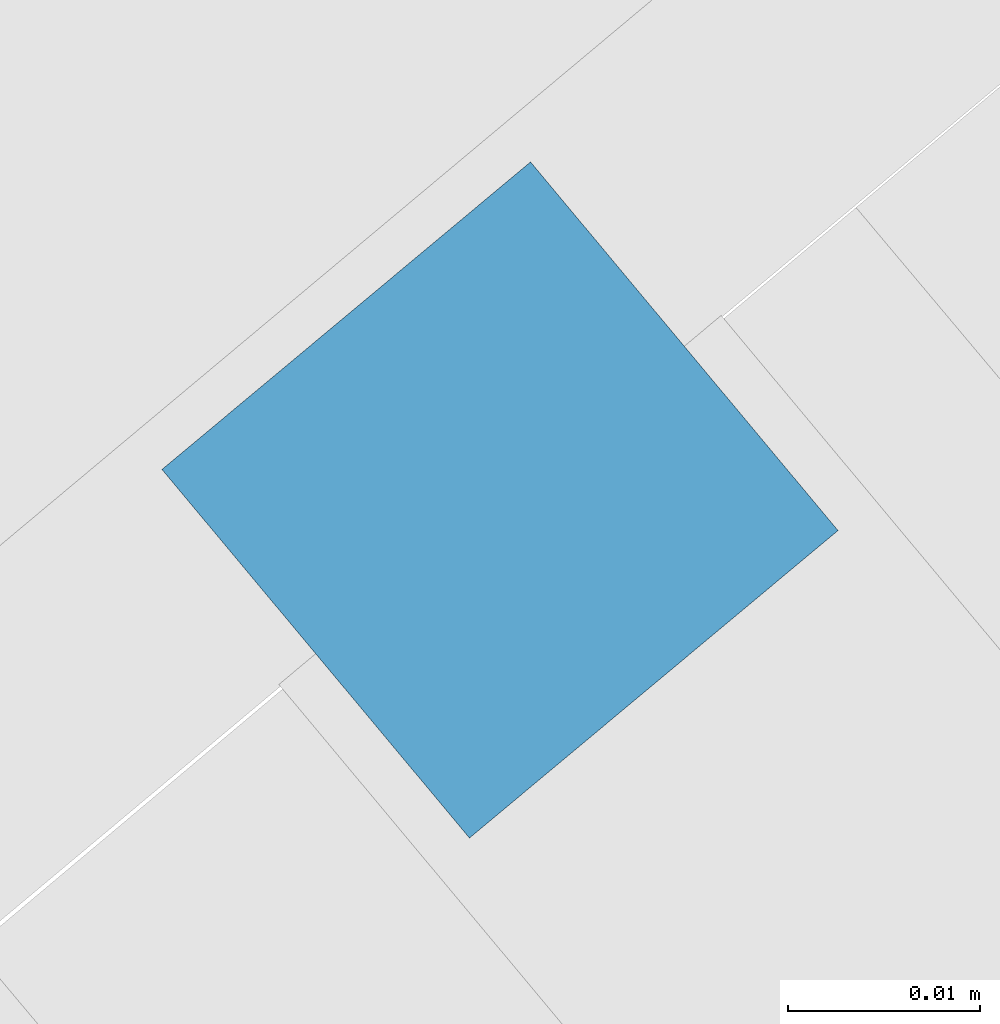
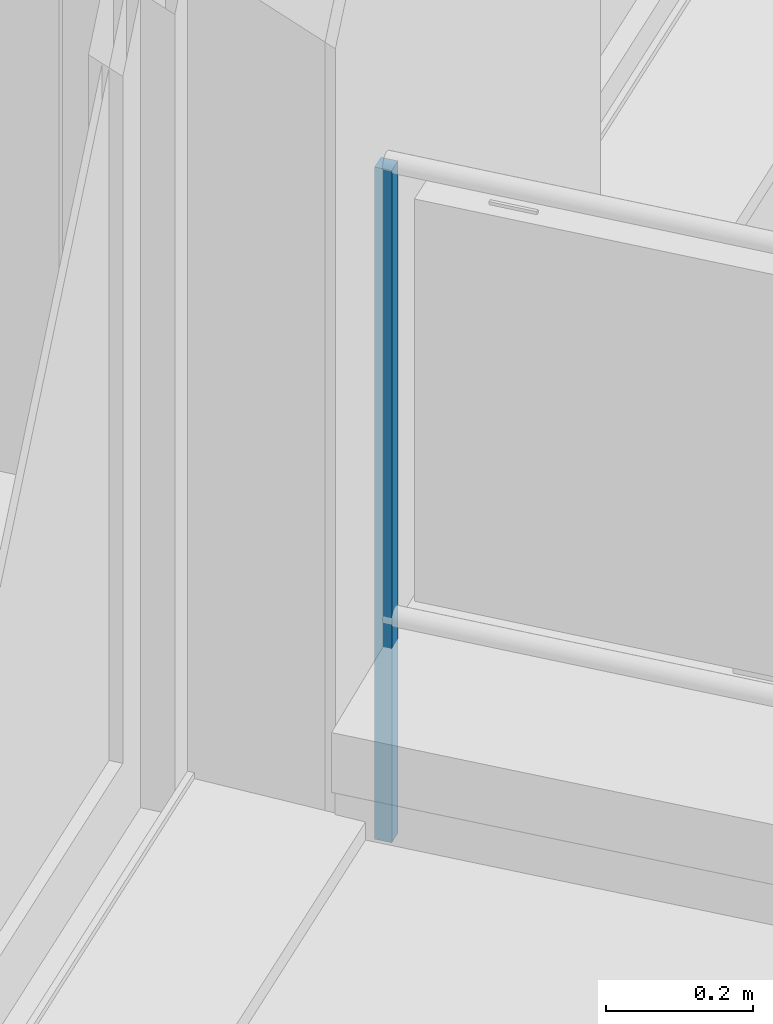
# One storey, part 22 of 50: 1 building element part, 1 element without a shape of its own.
"""IFC4 building model written with IfcOpenShell, lengths in metres."""

import ifcopenshell
import ifcopenshell.guid

model = None  # the IFC model being written
_history = None  # IfcOwnerHistory: only IFC2X3 demands one
_inside = {}  # id of a spatial element -> (the spatial element, [elements in it])
_under = {}  # id of a project, library or spatial element -> (it, [spatial elements below it])
_declared = {}  # id of a project -> (the project, [libraries it declares])
_typed = {}  # id of a type object -> (the type object, [elements of that type])
_made_of = {}  # id of a material, layer set ... -> (it, [elements and type objects made of it])


def new_model(schema):
    """Start an empty IFC model of exactly this schema.

    Asked for "IFC4X3", IfcOpenShell would pick the latest addendum, in which some entities
    have other attributes; the version numbers below select the first issue.
    IFC2X3 requires an IfcOwnerHistory on every rooted entity: one is made here for all.
    """
    global model, _history
    if schema == "IFC4X3":
        model = ifcopenshell.file(schema_version=(4, 3, 0, 0))
    else:
        model = ifcopenshell.file(schema=schema)
    _inside.clear()
    _under.clear()
    _declared.clear()
    _typed.clear()
    _made_of.clear()
    _history = None
    if model.schema == "IFC2X3":
        org = make("IfcOrganization", Name="unknown")
        user = make(
            "IfcPersonAndOrganization",
            ThePerson=make("IfcPerson", FamilyName="unknown"),
            TheOrganization=org,
        )
        app = make(
            "IfcApplication",
            ApplicationDeveloper=org,
            Version="unknown",
            ApplicationFullName="unknown",
            ApplicationIdentifier="unknown",
        )
        _history = make(
            "IfcOwnerHistory",
            OwningUser=user,
            OwningApplication=app,
            ChangeAction="ADDED",
            CreationDate=0,
        )
    return model


def make(cls, **values):
    """One entity of the class cls with the attributes given. An attribute that is None is left unset."""
    return model.create_entity(
        cls, **{name: value for name, value in values.items() if value is not None}
    )


def entity(cls, *values):
    """Any entity or typed value of the class cls, its attributes in the order of the schema. None: left unset."""
    e = model.create_entity(cls)
    for i, value in enumerate(values):
        if value is not None:
            e[i] = value
    return e


def rooted(cls, **values):
    """An entity with a GlobalId (a new one), such as an element, a storey or a relation."""
    return make(cls, GlobalId=ifcopenshell.guid.new(), OwnerHistory=_history, **values)


def si_unit(unit_type, name, prefix=None):
    """IfcSIUnit, for example si_unit("LENGTHUNIT", "METRE", prefix="MILLI")."""
    return make("IfcSIUnit", UnitType=unit_type, Prefix=prefix, Name=name)


def converted_unit(unit_type, name, factor, base, dimensions=None, offset=None):
    """IfcConversionBasedUnit, such as the inch: factor (a typed value) times the base unit."""
    return make(
        "IfcConversionBasedUnit"
        if offset is None
        else "IfcConversionBasedUnitWithOffset",
        ConversionOffset=offset,
        Dimensions=None
        if dimensions is None
        else entity("IfcDimensionalExponents", *dimensions),
        UnitType=unit_type,
        Name=name,
        ConversionFactor=make(
            "IfcMeasureWithUnit", ValueComponent=factor, UnitComponent=base
        ),
    )


def derived_unit(unit_type, elements):
    """IfcDerivedUnit: a product of units, each with its exponent."""
    return make(
        "IfcDerivedUnit",
        Elements=[
            make("IfcDerivedUnitElement", Unit=unit, Exponent=power)
            for unit, power in elements
        ],
        UnitType=unit_type,
    )


def assignment(units):
    """IfcUnitAssignment: the units of a project."""
    return None if units is None else make("IfcUnitAssignment", Units=units)


def point(xyz):
    """IfcCartesianPoint."""
    return None if xyz is None else make("IfcCartesianPoint", Coordinates=xyz)


def direction(xyz):
    """IfcDirection."""
    return None if xyz is None else make("IfcDirection", DirectionRatios=xyz)


def frame(location, z_axis=None, x_axis=None):
    """IfcAxis2Placement3D, a coordinate frame: its origin and axes. An axis left out is left unset."""
    return make(
        "IfcAxis2Placement3D",
        Location=point(location),
        Axis=direction(z_axis),
        RefDirection=direction(x_axis),
    )


def origin_with_axes():
    """The frame at (0, 0, 0) with the z axis (0, 0, 1) and the x axis (1, 0, 0) written out."""
    return frame((0.0, 0.0, 0.0), z_axis=(0.0, 0.0, 1.0), x_axis=(1.0, 0.0, 0.0))


def place(relative_to, where):
    """IfcLocalPlacement: puts the frame where relative to a parent placement (None: the world)."""
    return make(
        "IfcLocalPlacement", PlacementRelTo=relative_to, RelativePlacement=where
    )


def context(
    kind, dimensions, precision=None, world=None, true_north=None, identifier=None
):
    """IfcGeometricRepresentationContext, for example the 3D "Model" context."""
    return make(
        "IfcGeometricRepresentationContext",
        ContextIdentifier=identifier,
        ContextType=kind,
        CoordinateSpaceDimension=dimensions,
        Precision=precision,
        WorldCoordinateSystem=world,
        TrueNorth=true_north,
    )


def subcontext(parent, identifier, kind, view, scale=None):
    """IfcGeometricRepresentationSubContext, for example "Body" below "Model"."""
    return make(
        "IfcGeometricRepresentationSubContext",
        ContextIdentifier=identifier,
        ContextType=kind,
        ParentContext=parent,
        TargetScale=scale,
        TargetView=view,
    )


def project(units=None, contexts=None):
    """IfcProject with its units and contexts."""
    return rooted(
        "IfcProject",
        Name="project",
        RepresentationContexts=contexts,
        UnitsInContext=assignment(units),
    )


def spatial(cls, under=None, at=None, **own):
    """A site, building, storey or space (cls), placed at a placement, below another one or the project."""
    s = rooted(cls, ObjectPlacement=at, **own)
    if under is not None:
        _under.setdefault(under.id(), (under, []))[1].append(s)
    return s


def point_list(points):
    """IfcCartesianPointList2D or 3D."""
    cls = (
        "IfcCartesianPointList2D" if len(points[0]) == 2 else "IfcCartesianPointList3D"
    )
    return make(cls, CoordList=points)


def polygons(points, faces, closed=None, point_numbers=None):
    """IfcPolygonalFaceSet: a face is its outer loop, then its inner loops; points numbered from 1."""
    made = []
    for loops in faces:
        if len(loops) == 1:
            made.append(make("IfcIndexedPolygonalFace", CoordIndex=loops[0]))
        else:
            made.append(
                make(
                    "IfcIndexedPolygonalFaceWithVoids",
                    CoordIndex=loops[0],
                    InnerCoordIndices=loops[1:],
                )
            )
    return make(
        "IfcPolygonalFaceSet",
        Coordinates=point_list(points),
        Closed=closed,
        Faces=made,
        PnIndex=point_numbers,
    )


def shape(context_of_items, identifier, shape_type, items):
    """IfcShapeRepresentation: the items that make up one representation, for example the "Body"."""
    return make(
        "IfcShapeRepresentation",
        ContextOfItems=context_of_items,
        RepresentationIdentifier=identifier,
        RepresentationType=shape_type,
        Items=items,
    )


def material(Name=None, Category=None):
    """IfcMaterial."""
    return make("IfcMaterial", Name=Name, Category=Category)


def made_of(thing, what):
    """Note that an element or type object is made of a material, layer set ...; save() writes the relation."""
    if what is not None:
        _made_of.setdefault(what.id(), (what, []))[1].append(thing)
    return thing


def type_object(cls, material=None, **own):
    """A type object (cls), such as IfcWallType, which elements share."""
    return made_of(rooted(cls, **own), material)


def element(
    cls,
    number,
    at=None,
    inside=None,
    cuts=None,
    type_object=None,
    material=None,
    context=None,
    identifier="Body",
    shape_type=None,
    held_by="IfcProductDefinitionShape",
    body=None,
    shapes=None,
    **own,
):
    """One element of the class cls, such as IfcWall. Its Tag is "e" and its number.

    at: its placement. inside: the storey or other place that contains it. cuts: it is an
    opening in that element (IfcRelVoidsElement). A single representation is given by context,
    identifier, shape_type and body (its items); several are given by shapes. held_by: the class
    of the entity that holds the representations. save() writes the other relations.
    """
    e = rooted(cls, Tag="e%d" % number, ObjectPlacement=at, **own)
    if body is not None:
        shapes = [shape(context, identifier, shape_type, body)]
    if shapes is not None:
        e.Representation = make(held_by, Representations=shapes)
    if inside is not None:
        _inside.setdefault(inside.id(), (inside, []))[1].append(e)
    if cuts is not None:
        rooted(
            "IfcRelVoidsElement", RelatingBuildingElement=cuts, RelatedOpeningElement=e
        )
    if type_object is not None:
        _typed.setdefault(type_object.id(), (type_object, []))[1].append(e)
    return made_of(e, material)


def aggregate(whole, parts):
    """IfcRelAggregates: a whole, such as a stair, and the parts it consists of."""
    return rooted("IfcRelAggregates", RelatingObject=whole, RelatedObjects=parts)


def save(model, path):
    """Write the relations noted so far, then the file.

    IfcRelAggregates (storeys below a building ...), IfcRelContainedInSpatialStructure (elements
    in a storey), IfcRelDefinesByType, IfcRelAssociatesMaterial and IfcRelDeclares: one each for
    every whole, place, type object, material and project.
    """
    for whole, parts in _under.values():
        aggregate(whole, parts)
    for where, things in _inside.values():
        rooted(
            "IfcRelContainedInSpatialStructure",
            RelatedElements=things,
            RelatingStructure=where,
        )
    for kind, things in _typed.values():
        rooted("IfcRelDefinesByType", RelatedObjects=things, RelatingType=kind)
    for what, things in _made_of.values():
        rooted("IfcRelAssociatesMaterial", RelatedObjects=things, RelatingMaterial=what)
    for by, libraries in _declared.values():
        rooted("IfcRelDeclares", RelatingContext=by, RelatedDefinitions=libraries)
    model.write(path)


model = new_model("IFC4")

# Units and contexts
model_context = context("Model", 3, precision=1e-05, world=origin_with_axes(), true_north=direction((0.0, 1.0)))
body_context = subcontext(model_context, "Body", "Model", "MODEL_VIEW")
ifc_project = project(units=[si_unit("LENGTHUNIT", "METRE"), si_unit("AREAUNIT", "SQUARE_METRE"), si_unit("VOLUMEUNIT", "CUBIC_METRE"), converted_unit("PLANEANGLEUNIT", "DEGREE", entity("IfcPlaneAngleMeasure", 0.0174532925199), si_unit("PLANEANGLEUNIT", "RADIAN"), dimensions=[0, 0, 0, 0, 0, 0, 0]), converted_unit("TIMEUNIT", "Year", entity("IfcTimeMeasure", 31556926.0), si_unit("TIMEUNIT", "SECOND"), dimensions=[0, 0, 1, 0, 0, 0, 0]), si_unit("MASSUNIT", "GRAM", prefix="KILO"), si_unit("THERMODYNAMICTEMPERATUREUNIT", "DEGREE_CELSIUS"), si_unit("LUMINOUSINTENSITYUNIT", "LUMEN"), si_unit("ENERGYUNIT", "JOULE", prefix="MEGA"), derived_unit("THERMALCONDUCTANCEUNIT", [(si_unit("POWERUNIT", "WATT"), 1), (si_unit("LENGTHUNIT", "METRE"), -1), (si_unit("THERMODYNAMICTEMPERATUREUNIT", "KELVIN"), -1)]), derived_unit("SPECIFICHEATCAPACITYUNIT", [(si_unit("ENERGYUNIT", "JOULE"), 1), (si_unit("MASSUNIT", "GRAM", prefix="KILO"), -1), (si_unit("THERMODYNAMICTEMPERATUREUNIT", "KELVIN"), -1)]), derived_unit("MASSDENSITYUNIT", [(si_unit("MASSUNIT", "GRAM", prefix="KILO"), 1), (si_unit("VOLUMEUNIT", "CUBIC_METRE"), -1)])], contexts=[model_context])

# Site, building, storey
site_placement = place(None, frame((-0.00153261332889, -0.00661245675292, 0.0), z_axis=(0.0, 0.0, 1.0), x_axis=(1.0, 0.0, 0.0)))
site = spatial("IfcSite", under=ifc_project, at=site_placement, Name="Site", CompositionType="ELEMENT")
building_placement = place(site_placement, origin_with_axes())
building = spatial("IfcBuilding", under=site, at=building_placement, Name="Building", CompositionType="ELEMENT")
storey_placement = place(building_placement, frame((0.0, 0.0, 2.74), z_axis=(0.0, 0.0, 1.0), x_axis=(1.0, 0.0, 0.0)))
storey = spatial("IfcBuildingStorey", under=building, at=storey_placement, Name="OG1", CompositionType="ELEMENT", Elevation=2.74)

# Railing, building element part
railing_type = type_object("IfcRailingType", Name="Geländerart", PredefinedType="NOTDEFINED")
railing_placement = place(storey_placement, frame((-0.869246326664, 8.34153645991, 0.38), z_axis=(0.0, 0.0, 1.0), x_axis=(1.0, 0.0, 0.0)))
railing = element("IfcRailing", 1, at=railing_placement, inside=storey, type_object=railing_type, Name="Geländer - 001", PredefinedType="NOTDEFINED")
ifc_material = material(Name="Aluminium")
building_element_part_placement = place(railing_placement, origin_with_axes())
building_element_part = element("IfcBuildingElementPart", 2, at=building_element_part_placement, material=ifc_material, Name="Aluminium", PredefinedType="NOTDEFINED", context=body_context, shape_type="Tessellation", body=[
    polygons([(6.62329895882, 5.55815989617, -0.3), (6.6041029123, 5.54214391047, -0.3), (6.6041029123, 5.54214391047, 0.82), (6.62329895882, 5.55815989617, 0.82), (6.63931494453, 5.53896384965, -0.3), (6.620118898, 5.52294786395, -0.3), (6.620118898, 5.52294786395, 0.82), (6.63931494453, 5.53896384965, 0.82)], [[[1, 2, 3, 4]], [[1, 5, 6, 2]], [[2, 6, 7, 3]], [[4, 3, 7, 8]], [[5, 1, 4, 8]], [[6, 5, 8, 7]]], closed=True),
])
aggregate(railing, [building_element_part])

save(model, "model.ifc")
